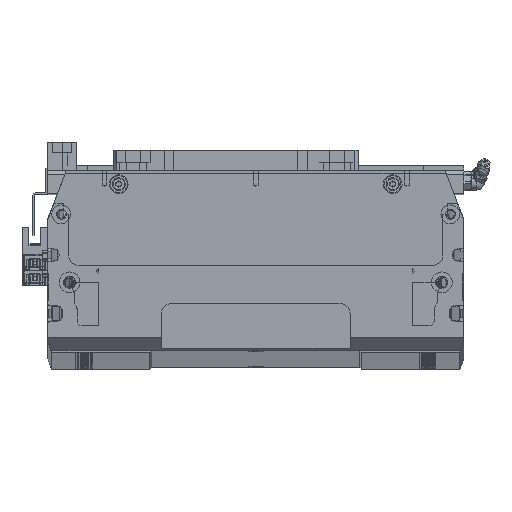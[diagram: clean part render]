
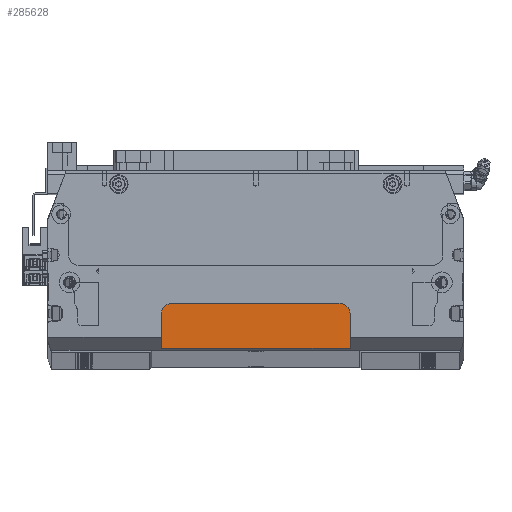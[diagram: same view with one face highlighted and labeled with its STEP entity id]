
A CAD part, top view. The second image highlights one B-rep face of the part: STEP entity #285628.
In plain terms, the highlighted planar face has unit normal (0, 0, 1) as drawn and (0, 1, 0) by its records, which use the part's own axes.
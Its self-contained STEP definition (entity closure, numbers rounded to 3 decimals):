
#5763 = EDGE_LOOP ( 'NONE', ( #28662, #76440, #123643, #189388, #383660, #67612 ) ) ;
#6622 = VECTOR ( 'NONE', #330246, 1000. ) ;
#24361 = DIRECTION ( 'NONE',  ( 0., -1., 0. ) ) ;
#28662 = ORIENTED_EDGE ( 'NONE', *, *, #492864, .T. ) ;
#30724 = EDGE_CURVE ( 'NONE', #428645, #99455, #463848, .T. ) ;
#36605 = FACE_OUTER_BOUND ( 'NONE', #5763, .T. ) ;
#67612 = ORIENTED_EDGE ( 'NONE', *, *, #195925, .F. ) ;
#76440 = ORIENTED_EDGE ( 'NONE', *, *, #340109, .T. ) ;
#80246 = CIRCLE ( 'NONE', #384684, 6. ) ;
#99455 = VERTEX_POINT ( 'NONE', #159100 ) ;
#100630 = PLANE ( 'NONE',  #431832 ) ;
#113032 = DIRECTION ( 'NONE',  ( -1., 0., 0. ) ) ;
#116694 = CARTESIAN_POINT ( 'NONE',  ( 50., 8., 58.25 ) ) ;
#119001 = VECTOR ( 'NONE', #232890, 1000. ) ;
#123643 = ORIENTED_EDGE ( 'NONE', *, *, #457296, .T. ) ;
#131348 = CARTESIAN_POINT ( 'NONE',  ( -50., 8., 39.25 ) ) ;
#140102 = VERTEX_POINT ( 'NONE', #471053 ) ;
#144596 = VECTOR ( 'NONE', #405334, 1000. ) ;
#152483 = DIRECTION ( 'NONE',  ( 0., 0., -1. ) ) ;
#155038 = VERTEX_POINT ( 'NONE', #384442 ) ;
#159100 = CARTESIAN_POINT ( 'NONE',  ( -50., 8., 57.25 ) ) ;
#181474 = CARTESIAN_POINT ( 'NONE',  ( 44., 8., 39.25 ) ) ;
#189388 = ORIENTED_EDGE ( 'NONE', *, *, #397095, .T. ) ;
#195925 = EDGE_CURVE ( 'NONE', #140102, #99455, #298985, .T. ) ;
#201339 = CARTESIAN_POINT ( 'NONE',  ( 44., 8., 33.25 ) ) ;
#232890 = DIRECTION ( 'NONE',  ( 0., 0., -1. ) ) ;
#253391 = DIRECTION ( 'NONE',  ( 0., 0., -1. ) ) ;
#255575 = VECTOR ( 'NONE', #113032, 1000. ) ;
#256191 = DIRECTION ( 'NONE',  ( 0., 0., -1. ) ) ;
#257115 = CARTESIAN_POINT ( 'NONE',  ( -50., 8., 58.25 ) ) ;
#285628 = ADVANCED_FACE ( 'NONE', ( #36605 ), #100630, .F. ) ;
#298985 = LINE ( 'NONE', #486626, #144596 ) ;
#330246 = DIRECTION ( 'NONE',  ( 0., 0., 1. ) ) ;
#340109 = EDGE_CURVE ( 'NONE', #391344, #476013, #423935, .T. ) ;
#342180 = CARTESIAN_POINT ( 'NONE',  ( -50., 8., 33.25 ) ) ;
#343469 = CARTESIAN_POINT ( 'NONE',  ( -44., 8., 39.25 ) ) ;
#375639 = DIRECTION ( 'NONE',  ( 0., 1., 0. ) ) ;
#383660 = ORIENTED_EDGE ( 'NONE', *, *, #30724, .T. ) ;
#384442 = CARTESIAN_POINT ( 'NONE',  ( -44., 8., 33.25 ) ) ;
#384684 = AXIS2_PLACEMENT_3D ( 'NONE', #343469, #454663, #152483 ) ;
#391344 = VERTEX_POINT ( 'NONE', #487245 ) ;
#397095 = EDGE_CURVE ( 'NONE', #155038, #428645, #80246, .T. ) ;
#397997 = LINE ( 'NONE', #342180, #255575 ) ;
#399772 = AXIS2_PLACEMENT_3D ( 'NONE', #181474, #375639, #256191 ) ;
#401186 = CARTESIAN_POINT ( 'NONE',  ( 0., 8., 0. ) ) ;
#405334 = DIRECTION ( 'NONE',  ( -1., 0., 0. ) ) ;
#421980 = LINE ( 'NONE', #116694, #119001 ) ;
#423935 = CIRCLE ( 'NONE', #399772, 6. ) ;
#428645 = VERTEX_POINT ( 'NONE', #131348 ) ;
#431832 = AXIS2_PLACEMENT_3D ( 'NONE', #401186, #24361, #253391 ) ;
#454663 = DIRECTION ( 'NONE',  ( 0., 1., 0. ) ) ;
#457296 = EDGE_CURVE ( 'NONE', #476013, #155038, #397997, .T. ) ;
#463848 = LINE ( 'NONE', #257115, #6622 ) ;
#471053 = CARTESIAN_POINT ( 'NONE',  ( 50., 8., 57.25 ) ) ;
#476013 = VERTEX_POINT ( 'NONE', #201339 ) ;
#486626 = CARTESIAN_POINT ( 'NONE',  ( 110., 8., 57.25 ) ) ;
#487245 = CARTESIAN_POINT ( 'NONE',  ( 50., 8., 39.25 ) ) ;
#492864 = EDGE_CURVE ( 'NONE', #140102, #391344, #421980, .T. ) ;
